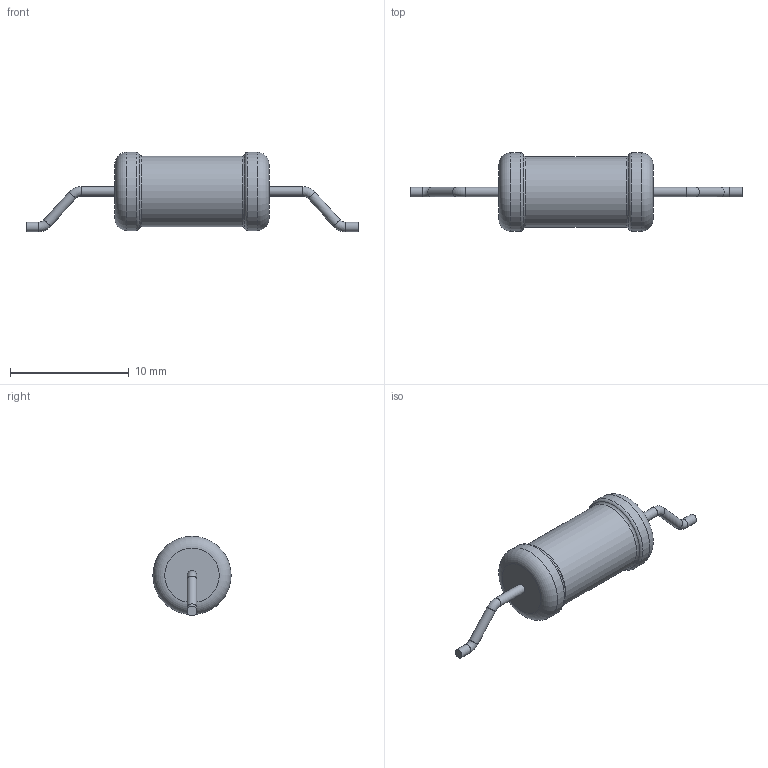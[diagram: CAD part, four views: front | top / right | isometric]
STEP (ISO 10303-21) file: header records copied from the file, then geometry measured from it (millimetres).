
FILE_DESCRIPTION(('STEP AP203'), '1');
FILE_NAME('ﾑ2-29ﾂﾌ-1(3)', '', ('UNSPECIFIED'), ('UNSPECIFIED'), 'ASCON STEP Converter 1.6', 'ASCON Math Kernel', '');
FILE_SCHEMA(('CONFIG_CONTROL_DESIGN'));
Length unit declared in the file: millimetre
Bounding box: 28 x 6.6 x 6.7 mm (x, y, z)
Volume: 388.9 mm3; surface area: 350.5 mm2
Topology: 1 solids, 1 shells, 23 faces, 41 edges, 22 vertices
Faces by surface type: torus 10, cylinder 9, plane 4
Full cylindrical faces by diameter (mm): 0.8 x6, 5.96 x1, 6.6 x2
Entity records: 682 total; most frequent: DIRECTION 92, CARTESIAN_POINT 68, AXIS2_PLACEMENT_3D 46, EDGE_LOOP 44, ORIENTED_EDGE 44, FACE_OUTER_BOUND 38, COLOUR_RGB 24, FILL_AREA_STYLE_COLOUR 24
